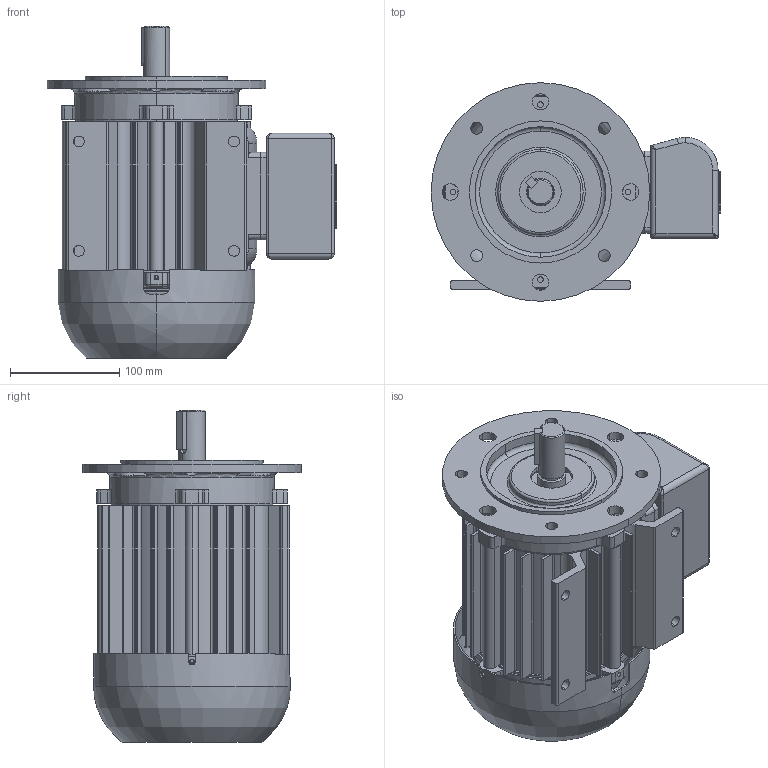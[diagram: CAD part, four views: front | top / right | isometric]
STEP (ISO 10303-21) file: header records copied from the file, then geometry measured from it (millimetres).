
FILE_DESCRIPTION (( 'STEP AP203' ), '1' );
FILE_NAME ('MOTOR WEG W22.STEP', '2020-07-09T18:25:28', ( '' ), ( '' ), 'SwSTEP 2.0', 'SolidWorks 2017', '' );
FILE_SCHEMA (( 'CONFIG_CONTROL_DESIGN' ));
Length unit declared in the file: millimetre
Products named in the file (9): CAIXA ELÉTRICA; PROTETOR; MOTOR WEG W22; TAMPA; FLANGE; VENTUINHA_TRASEIRA; CORPO; CHAVETA_EIXO; EIXO MOTOR
Assembly tree (8 placements, depth 2):
  MOTOR WEG W22
    CORPO
    FLANGE
    PROTETOR
    VENTUINHA_TRASEIRA
    EIXO MOTOR
    CHAVETA_EIXO
    TAMPA
    CAIXA ELÉTRICA
Bounding box: 265 x 200 x 303.6 mm (x, y, z)
Volume: 4232481.3 mm3; surface area: 569906 mm2
Topology: 8 solids, 8 shells, 1324 faces, 3715 edges, 2399 vertices
Faces by surface type: plane 753, cylinder 413, bspline 62, torus 60, cone 23, sphere 13
Entity records: 46744 total; most frequent: CARTESIAN_POINT 11293, ORIENTED_EDGE 7402, DIRECTION 6889, EDGE_CURVE 3701, LINE 2431, VECTOR 2431, VERTEX_POINT 2399, AXIS2_PLACEMENT_3D 2229
